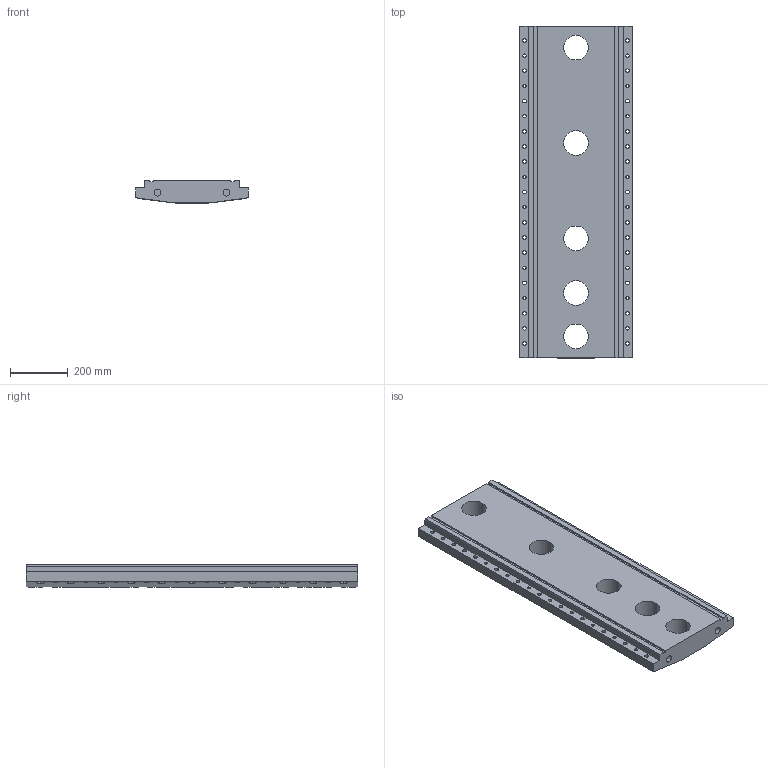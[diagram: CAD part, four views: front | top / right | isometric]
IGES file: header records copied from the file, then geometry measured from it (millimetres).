
Start section:  PTC IGES file: sst_ocs_spcl_af0.igs
Global section: file name: sst_ocs_spcl_af0.igs; native system: Pro/ENGINEER by Parametric Technology Corporation; preprocessor: 1999260; author: oshatz; organization: Unknown; date: 000922.101640; units: millimetre
Bounding box: 390.89 x 1149 x 79.49 mm (x, y, z)
Surface area: 1255893.8 mm2 (no closed solid volume)
Topology: 0 solids, 0 shells, 264 faces, 1272 edges, 1272 vertices
Faces by surface type: revolution 195, bspline 69
